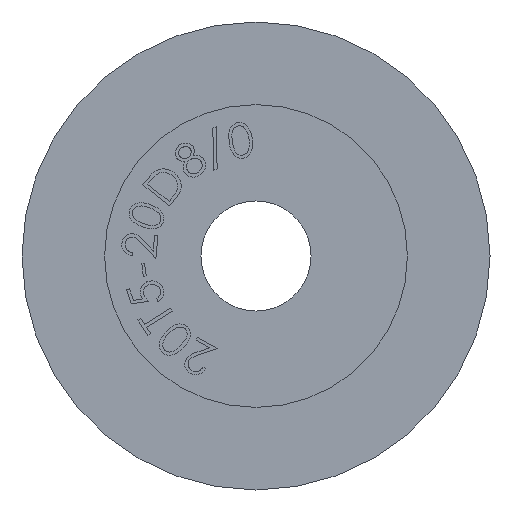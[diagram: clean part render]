
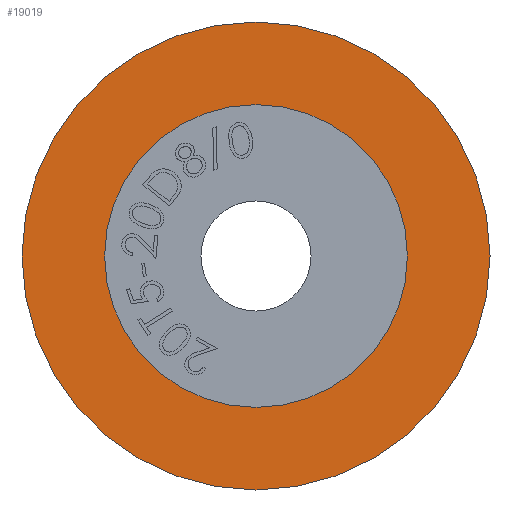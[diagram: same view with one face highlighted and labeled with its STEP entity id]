
A CAD part, left-side view. The second image highlights one B-rep face of the part: STEP entity #19019.
In plain terms, the highlighted planar face has unit normal (-1, 0, 0).
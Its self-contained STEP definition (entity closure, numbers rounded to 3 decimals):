
#2140 = VERTEX_POINT ( 'NONE', #13054 ) ;
#2294 = DIRECTION ( 'NONE',  ( 0., 0., 1. ) ) ;
#2312 = CARTESIAN_POINT ( 'NONE',  ( 1., 0., 0. ) ) ;
#2746 = VERTEX_POINT ( 'NONE', #12495 ) ;
#2787 = FACE_BOUND ( 'NONE', #15420, .T. ) ;
#3054 = EDGE_CURVE ( 'NONE', #4025, #2746, #15841, .T. ) ;
#3222 = CIRCLE ( 'NONE', #18387, 17. ) ;
#4008 = DIRECTION ( 'NONE',  ( 0., 0., 1. ) ) ;
#4019 = DIRECTION ( 'NONE',  ( 1., 0., 0. ) ) ;
#4025 = VERTEX_POINT ( 'NONE', #19957 ) ;
#4174 = EDGE_CURVE ( 'NONE', #2746, #4025, #12156, .T. ) ;
#4315 = CARTESIAN_POINT ( 'NONE',  ( 1., 0., 0. ) ) ;
#5518 = CARTESIAN_POINT ( 'NONE',  ( 1., 0., 0. ) ) ;
#7799 = ORIENTED_EDGE ( 'NONE', *, *, #3054, .T. ) ;
#8372 = EDGE_CURVE ( 'NONE', #2140, #16482, #3222, .T. ) ;
#9422 = CIRCLE ( 'NONE', #14914, 17. ) ;
#10062 = DIRECTION ( 'NONE',  ( 0., 0., 1. ) ) ;
#11136 = EDGE_LOOP ( 'NONE', ( #16030, #17913 ) ) ;
#11669 = DIRECTION ( 'NONE',  ( -1., 0., 0. ) ) ;
#11961 = DIRECTION ( 'NONE',  ( 0., 0., 1. ) ) ;
#12053 = ORIENTED_EDGE ( 'NONE', *, *, #4174, .T. ) ;
#12156 = CIRCLE ( 'NONE', #17333, 11. ) ;
#12495 = CARTESIAN_POINT ( 'NONE',  ( 1., 0., 11. ) ) ;
#12544 = EDGE_CURVE ( 'NONE', #16482, #2140, #9422, .T. ) ;
#13054 = CARTESIAN_POINT ( 'NONE',  ( 1., 0., -17. ) ) ;
#13176 = DIRECTION ( 'NONE',  ( -1., 0., 0. ) ) ;
#13473 = FACE_OUTER_BOUND ( 'NONE', #11136, .T. ) ;
#14611 = CARTESIAN_POINT ( 'NONE',  ( 1., 0., 0. ) ) ;
#14914 = AXIS2_PLACEMENT_3D ( 'NONE', #14611, #13176, #10062 ) ;
#15301 = DIRECTION ( 'NONE',  ( -1., 0., 0. ) ) ;
#15420 = EDGE_LOOP ( 'NONE', ( #12053, #7799 ) ) ;
#15841 = CIRCLE ( 'NONE', #16168, 11. ) ;
#16030 = ORIENTED_EDGE ( 'NONE', *, *, #12544, .T. ) ;
#16168 = AXIS2_PLACEMENT_3D ( 'NONE', #2312, #18032, #18428 ) ;
#16482 = VERTEX_POINT ( 'NONE', #18108 ) ;
#17333 = AXIS2_PLACEMENT_3D ( 'NONE', #4315, #4019, #2294 ) ;
#17419 = AXIS2_PLACEMENT_3D ( 'NONE', #19741, #15301, #11961 ) ;
#17913 = ORIENTED_EDGE ( 'NONE', *, *, #8372, .T. ) ;
#18032 = DIRECTION ( 'NONE',  ( 1., 0., 0. ) ) ;
#18108 = CARTESIAN_POINT ( 'NONE',  ( 1., 0., 17. ) ) ;
#18387 = AXIS2_PLACEMENT_3D ( 'NONE', #5518, #11669, #4008 ) ;
#18428 = DIRECTION ( 'NONE',  ( 0., 0., 1. ) ) ;
#19019 = ADVANCED_FACE ( 'NONE', ( #13473, #2787 ), #19935, .T. ) ;
#19741 = CARTESIAN_POINT ( 'NONE',  ( 1., 0., 0. ) ) ;
#19935 = PLANE ( 'NONE',  #17419 ) ;
#19957 = CARTESIAN_POINT ( 'NONE',  ( 1., 0., -11. ) ) ;
